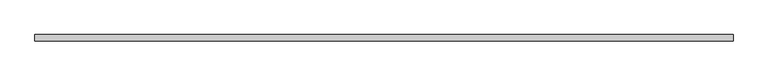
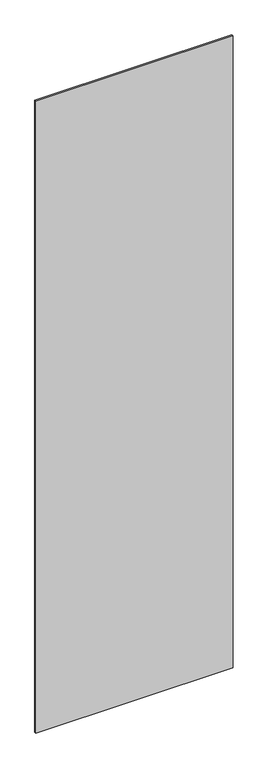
"""IFC4 building model written with IfcOpenShell, lengths in millimetres: plate geometry, システム パネル : 標準."""

from ifc_helpers import new_model, si_unit, origin, origin_with_axes, place, context, project, spatial, polyline, outline, extrude, source, transform, mapped, element, save


def plate_9603d0b4(model_context):
    return source(origin(), model_context, "Body", "SweptSolid", [
        extrude(outline(polyline([(570.8204416, -5.0), (-570.8204416, -5.0), (-570.8204416, 5.0), (570.8204416, 5.0), (570.8204416, -5.0)])), origin_with_axes(), (0.0, 0.0, 1.0), 3860.0),
    ])


if __name__ == "__main__":
    model = new_model("IFC4")
    model_context = context("Model", 3, world=origin())
    ifc_project = project(units=[si_unit("LENGTHUNIT", "METRE", prefix="MILLI")], contexts=[model_context])
    site = spatial("IfcSite", under=ifc_project)
    building = spatial("IfcBuilding", under=site)
    placement = place(None, origin())
    plate_shape = plate_9603d0b4(model_context)
    element("IfcPlate", 1, ObjectType="システム パネル : 標準", at=placement, inside=building, context=model_context, shape_type="MappedRepresentation", body=[
        mapped(plate_shape, transform((0.0, 0.0, 0.0), x_axis=(1.0, 0.0, 0.0), y_axis=(0.0, 1.0, 0.0), z_axis=(0.0, 0.0, 1.0))),
    ])
    save(model, "model.ifc")
